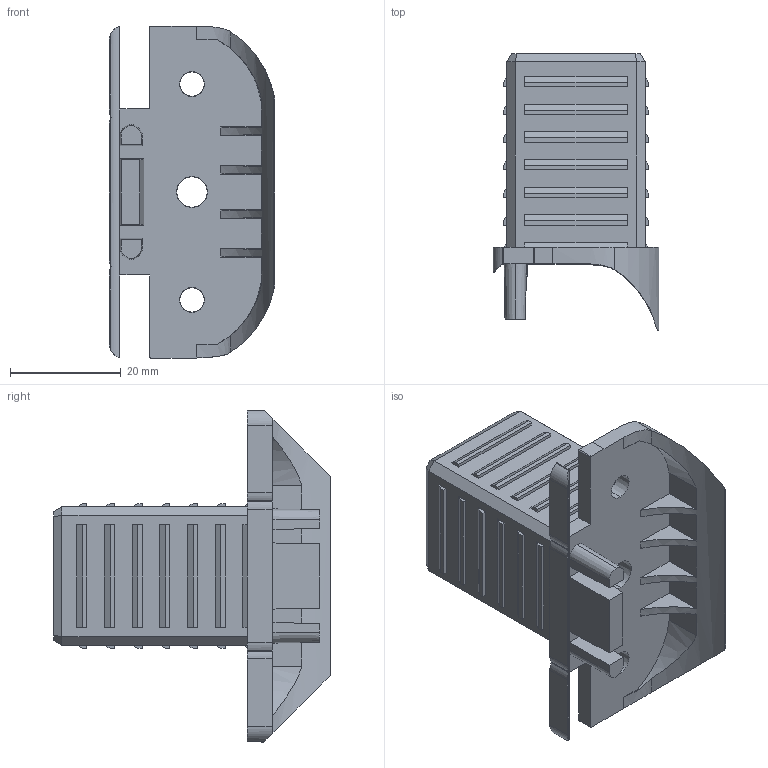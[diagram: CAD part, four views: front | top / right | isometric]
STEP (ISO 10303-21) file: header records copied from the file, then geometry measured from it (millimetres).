
FILE_DESCRIPTION (( 'STEP AP203' ), '1' );
FILE_NAME ('013.030.132.STEP', '2020-11-09T08:45:39', ( '' ), ( '' ), 'SwSTEP 2.0', 'SolidWorks 2018', '' );
FILE_SCHEMA (( 'CONFIG_CONTROL_DESIGN' ));
Length unit declared in the file: millimetre
Products named in the file (1): 013.030.132
Bounding box: 30 x 50 x 60 mm (x, y, z)
Volume: 13951.2 mm3; surface area: 13003.6 mm2
Topology: 1 solids, 1 shells, 286 faces, 752 edges, 498 vertices
Faces by surface type: plane 233, cylinder 37, cone 12, bspline 4
Entity records: 8931 total; most frequent: CARTESIAN_POINT 1778, ORIENTED_EDGE 1504, DIRECTION 1368, EDGE_CURVE 752, VECTOR 628, LINE 628, VERTEX_POINT 498, AXIS2_PLACEMENT_3D 370
